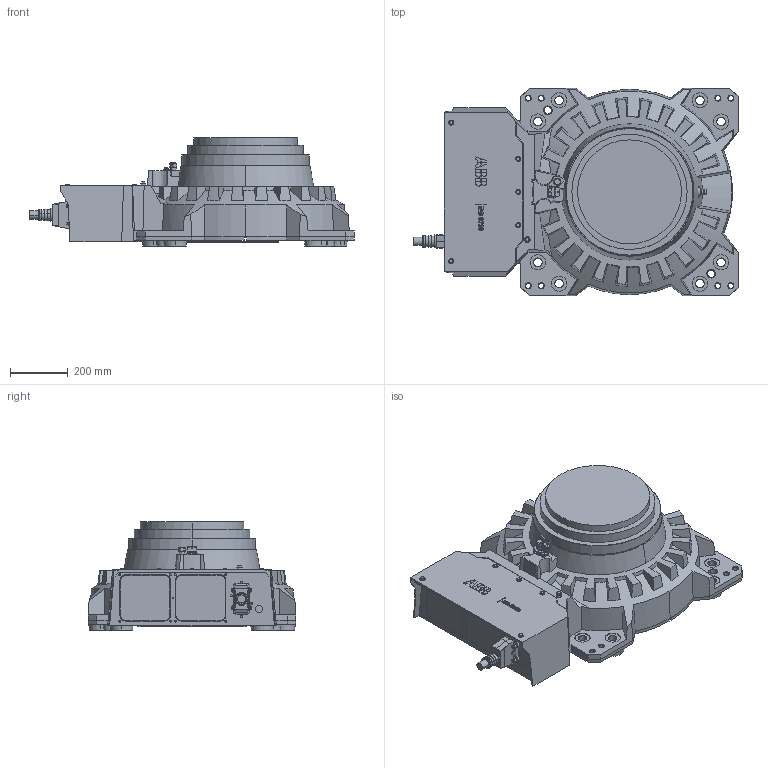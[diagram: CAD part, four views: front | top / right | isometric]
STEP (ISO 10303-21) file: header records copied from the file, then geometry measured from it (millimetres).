
FILE_DESCRIPTION (( 'STEP AP214' ), '1' );
FILE_NAME ('IRB6710_210kg-265_OC_00_BASE_CAD.STEP', '2023-01-12T10:57:08', ( '' ), ( '' ), 'SwSTEP 2.0', 'SolidWorks 2020', '' );
FILE_SCHEMA (( 'AUTOMOTIVE_DESIGN' ));
Length unit declared in the file: millimetre
Products named in the file (1): IRB6710_210kg-265_OC_00_BASE_CAD
Bounding box: 1124.5 x 720 x 374 mm (x, y, z)
Volume: 118805660.3 mm3; surface area: 2785957.8 mm2
Topology: 1 solids, 4 shells, 1129 faces, 2894 edges, 1876 vertices
Faces by surface type: plane 624, cylinder 257, cone 194, bspline 39, torus 11, sphere 4
Entity records: 41483 total; most frequent: CARTESIAN_POINT 9894, ORIENTED_EDGE 5780, DIRECTION 5532, EDGE_CURVE 2890, AXIS2_PLACEMENT_3D 1934, VERTEX_POINT 1876, VECTOR 1664, LINE 1664
